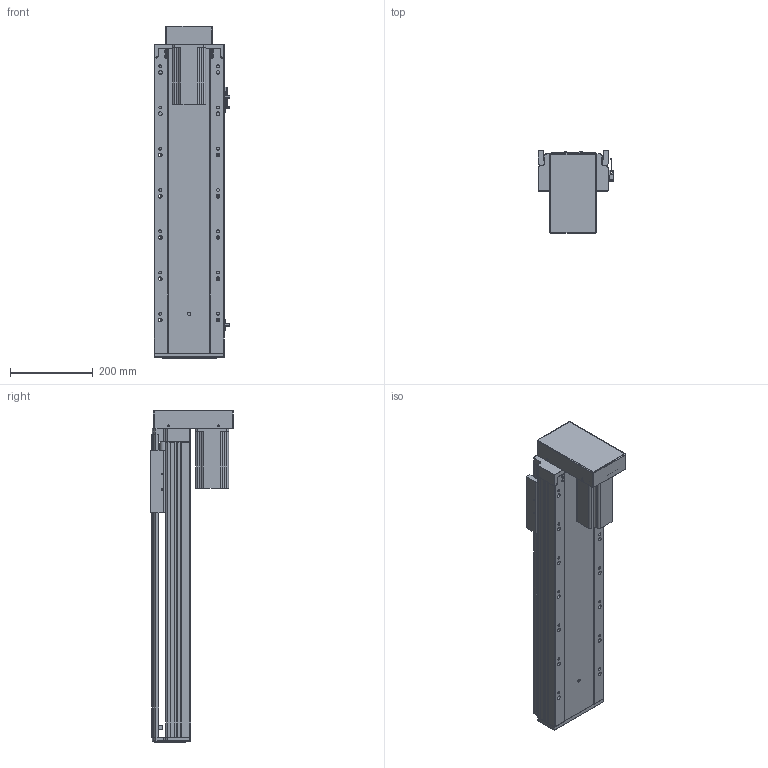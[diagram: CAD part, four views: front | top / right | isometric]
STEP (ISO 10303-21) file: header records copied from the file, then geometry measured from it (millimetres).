
FILE_DESCRIPTION (( 'STEP AP203' ), '1' );
FILE_NAME ('RY170-L2510-300-BK.SLDASM_500.step', '2021-03-12T08:57:54', ( '盈信电脑' ), ( '东莞市道滘镇水果街19号' ), 'SwSTEP 2.0', 'SolidWorks 2012', '' );
FILE_SCHEMA (( 'CONFIG_CONTROL_DESIGN' ));
Length unit declared in the file: millimetre
Products named in the file (14): RY170-狟殏750W萇儂傷; RY170-L2510-300-BK.SLDASM_500; RY170狟殏萇儂欶; 怢湛750W萇儂ㄗ80遺ㄘ; RY170转折电机端支撑座(7004); RY170-狟殏萇儂假蚾啣; 滅袉蝶18-20; RY170外置感应片(200共用）; 覜茼ん672; 滅袉蝶18-10; 改造-RY170铝滑块25丝杆螺母; RY170綴裔啣; RY170-300倰第菁釱-BK_500; RY170-300倰第裔啣-BK_500
Assembly tree (15 placements, depth 3):
  RY170-L2510-300-BK.SLDASM_500
    RY170-300倰第菁釱-BK_500
    改造-RY170铝滑块25丝杆螺母
    RY170-300倰第裔啣-BK_500
    RY170綴裔啣
    覜茼ん672  x3
    RY170外置感应片(200共用）
    滅袉蝶18-20
    滅袉蝶18-10
    RY170转折电机端支撑座(7004)
    RY170-狟殏750W萇儂傷
      RY170-狟殏萇儂假蚾啣
      RY170狟殏萇儂欶
      怢湛750W萇儂ㄗ80遺ㄘ
Bounding box: 183.7 x 200.8 x 804.5 mm (x, y, z)
Volume: 5101452.8 mm3; surface area: 1499174.8 mm2
Topology: 14 solids, 14 shells, 2092 faces, 6009 edges, 3876 vertices
Faces by surface type: plane 1080, cylinder 843, cone 150, bspline 19
Entity records: 67738 total; most frequent: CARTESIAN_POINT 16271, ORIENTED_EDGE 10810, DIRECTION 9937, EDGE_CURVE 5405, VERTEX_POINT 3556, VECTOR 3377, LINE 3377, AXIS2_PLACEMENT_3D 3280
